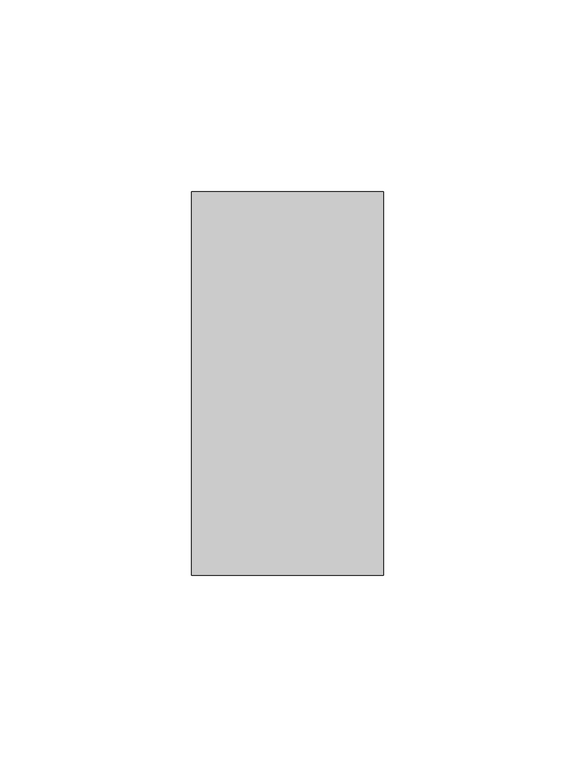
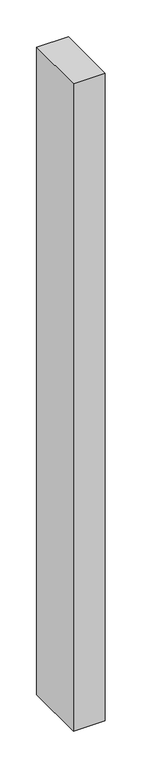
"""IFC4 building model written with IfcOpenShell, lengths in millimetres: member geometry, Meneaux de murs-rideaux - Meneau rectangulaire - 10 x 25mm (2)."""

from ifc_helpers import new_model, si_unit, frame, origin, place, context, project, spatial, polyline, outline, extrude, source, transform, mapped, element, save


def member_646bbe2c(model_context):
    return source(origin(), model_context, "Body", "SweptSolid", [
        extrude(outline(polyline([(-50.0, 50.0), (0.0, 50.0), (0.0, -50.0), (-50.0, -50.0), (-50.0, 50.0)])), frame((0.0, 0.0, -1075.0), z_axis=(0.0, 0.0, 1.0), x_axis=(1.0, 0.0, 0.0)), (0.0, 0.0, 1.0), 1075.0),
    ])


if __name__ == "__main__":
    model = new_model("IFC4")
    model_context = context("Model", 3, world=origin())
    ifc_project = project(units=[si_unit("LENGTHUNIT", "METRE", prefix="MILLI")], contexts=[model_context])
    site = spatial("IfcSite", under=ifc_project)
    building = spatial("IfcBuilding", under=site)
    placement = place(None, origin())
    member_shape = member_646bbe2c(model_context)
    element("IfcMember", 1, ObjectType="Meneaux de murs-rideaux - Meneau rectangulaire - 10 x 25mm (2)", at=placement, inside=building, context=model_context, shape_type="MappedRepresentation", body=[
        mapped(member_shape, transform((0.0, 0.0, 0.0), x_axis=(1.0, 0.0, 0.0), y_axis=(0.0, 1.0, 0.0), z_axis=(0.0, 0.0, 1.0))),
    ])
    save(model, "model.ifc")
